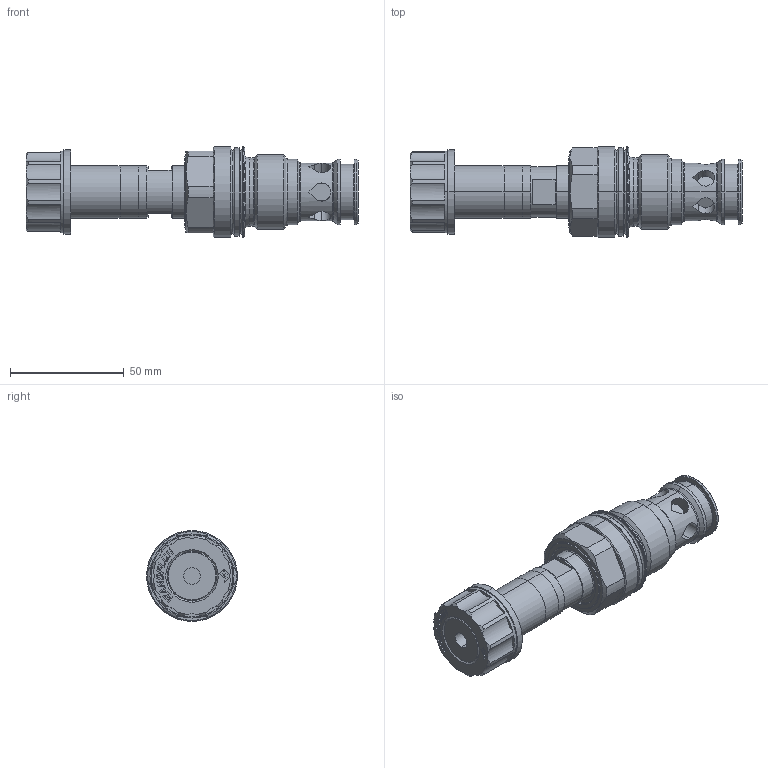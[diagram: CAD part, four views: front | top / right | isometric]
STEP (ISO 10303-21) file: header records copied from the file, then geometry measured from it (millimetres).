
FILE_DESCRIPTION (( 'STEP AP214' ), '1' );
FILE_NAME ('DNPPM33.STEP', '2014-03-19T09:13:04', ( '' ), ( '' ), 'SwSTEP 2.0', 'SolidWorks 2012', '' );
FILE_SCHEMA (( 'AUTOMOTIVE_DESIGN' ));
Length unit declared in the file: millimetre
Products named in the file (1): DNPPM33
Bounding box: 146 x 40 x 40 mm (x, y, z)
Volume: 99259.1 mm3; surface area: 29734.2 mm2
Topology: 5 solids, 5 shells, 742 faces, 1851 edges, 1149 vertices
Faces by surface type: plane 436, cylinder 160, cone 76, torus 54, bspline 16
Entity records: 31309 total; most frequent: CARTESIAN_POINT 5177, DIRECTION 3815, ORIENTED_EDGE 3702, EDGE_CURVE 1851, AXIS2_PLACEMENT_3D 1343, VERTEX_POINT 1149, VECTOR 1129, LINE 1129
